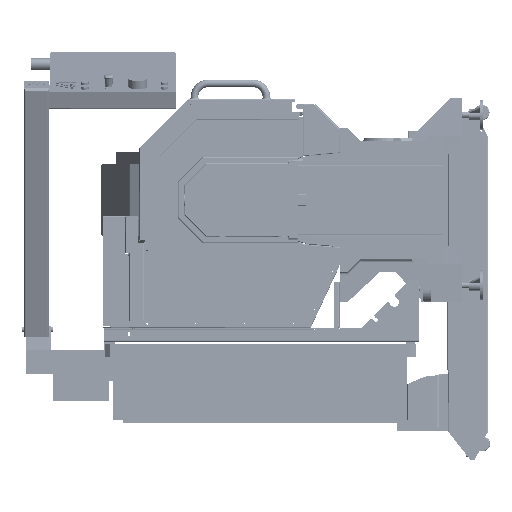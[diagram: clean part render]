
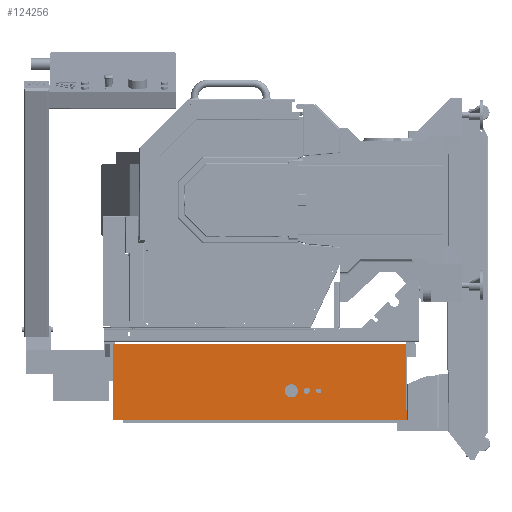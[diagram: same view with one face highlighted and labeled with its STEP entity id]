
A CAD part, left-side view. The second image highlights one B-rep face of the part: STEP entity #124256.
In plain terms, the highlighted planar face has unit normal (-1, 0, 0).
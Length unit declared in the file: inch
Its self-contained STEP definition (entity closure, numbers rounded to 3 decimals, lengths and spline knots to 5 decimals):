
#15955 = CARTESIAN_POINT ( 'NONE',  ( -29.00889, 29.34853, -50.59227 ) ) ;
#41256 = CARTESIAN_POINT ( 'NONE',  ( -29.00889, 29.34853, -38.13227 ) ) ;
#44238 = EDGE_LOOP ( 'NONE', ( #321641, #215588, #151981, #127463, #190270, #292487 ) ) ;
#52797 = CARTESIAN_POINT ( 'NONE',  ( -29.00889, -18.86647, -50.59227 ) ) ;
#53067 = VERTEX_POINT ( 'NONE', #200134 ) ;
#61742 = DIRECTION ( 'NONE',  ( 0., 0., -1. ) ) ;
#65046 = CARTESIAN_POINT ( 'NONE',  ( -29.00889, 29.34853, -38.36227 ) ) ;
#67912 = FACE_OUTER_BOUND ( 'NONE', #44238, .T. ) ;
#74590 = DIRECTION ( 'NONE',  ( 0., 1., 0. ) ) ;
#82059 = VECTOR ( 'NONE', #61742, 39.37008 ) ;
#86194 = EDGE_CURVE ( 'NONE', #320122, #260995, #169445, .T. ) ;
#88226 = EDGE_CURVE ( 'NONE', #304798, #269313, #173680, .T. ) ;
#93952 = CARTESIAN_POINT ( 'NONE',  ( -29.00889, -18.86647, -50.59227 ) ) ;
#96870 = DIRECTION ( 'NONE',  ( 0., 1., 0. ) ) ;
#106339 = VECTOR ( 'NONE', #280649, 39.37008 ) ;
#110486 = EDGE_CURVE ( 'NONE', #260995, #269313, #294372, .T. ) ;
#111453 = CARTESIAN_POINT ( 'NONE',  ( -29.00889, 29.34853, -38.13227 ) ) ;
#119777 = DIRECTION ( 'NONE',  ( 0., 1., 0. ) ) ;
#120344 = VECTOR ( 'NONE', #96870, 39.37008 ) ;
#124256 = ADVANCED_FACE ( 'NONE', ( #67912 ), #223045, .T. ) ;
#124374 = EDGE_CURVE ( 'NONE', #53067, #217283, #180819, .T. ) ;
#127463 = ORIENTED_EDGE ( 'NONE', *, *, #124374, .T. ) ;
#147125 = DIRECTION ( 'NONE',  ( -1., 0., 0. ) ) ;
#151981 = ORIENTED_EDGE ( 'NONE', *, *, #316703, .T. ) ;
#169445 = LINE ( 'NONE', #41256, #120344 ) ;
#173680 = LINE ( 'NONE', #276542, #298393 ) ;
#180819 = LINE ( 'NONE', #251676, #279820 ) ;
#186696 = DIRECTION ( 'NONE',  ( 0., 0., 1. ) ) ;
#190270 = ORIENTED_EDGE ( 'NONE', *, *, #193172, .T. ) ;
#193172 = EDGE_CURVE ( 'NONE', #217283, #320122, #289541, .T. ) ;
#200134 = CARTESIAN_POINT ( 'NONE',  ( -29.00889, -18.86647, -49.09227 ) ) ;
#201763 = VECTOR ( 'NONE', #186696, 39.37008 ) ;
#214862 = AXIS2_PLACEMENT_3D ( 'NONE', #324231, #147125, #246709 ) ;
#215588 = ORIENTED_EDGE ( 'NONE', *, *, #88226, .F. ) ;
#217283 = VERTEX_POINT ( 'NONE', #257754 ) ;
#223045 = PLANE ( 'NONE',  #214862 ) ;
#246709 = DIRECTION ( 'NONE',  ( 0., -1., 0. ) ) ;
#251676 = CARTESIAN_POINT ( 'NONE',  ( -29.00889, 29.34853, -49.09227 ) ) ;
#257754 = CARTESIAN_POINT ( 'NONE',  ( -29.00889, -18.77647, -49.09227 ) ) ;
#260995 = VERTEX_POINT ( 'NONE', #111453 ) ;
#264266 = CARTESIAN_POINT ( 'NONE',  ( -29.00889, -18.77647, -49.09227 ) ) ;
#269313 = VERTEX_POINT ( 'NONE', #15955 ) ;
#275302 = CARTESIAN_POINT ( 'NONE',  ( -29.00889, -18.77647, -38.13227 ) ) ;
#276542 = CARTESIAN_POINT ( 'NONE',  ( -29.00889, 29.34853, -50.59227 ) ) ;
#279820 = VECTOR ( 'NONE', #74590, 39.37008 ) ;
#280649 = DIRECTION ( 'NONE',  ( 0., 0., 1. ) ) ;
#289541 = LINE ( 'NONE', #264266, #201763 ) ;
#292487 = ORIENTED_EDGE ( 'NONE', *, *, #86194, .T. ) ;
#294372 = LINE ( 'NONE', #65046, #82059 ) ;
#296351 = LINE ( 'NONE', #93952, #106339 ) ;
#298393 = VECTOR ( 'NONE', #119777, 39.37008 ) ;
#304798 = VERTEX_POINT ( 'NONE', #52797 ) ;
#316703 = EDGE_CURVE ( 'NONE', #304798, #53067, #296351, .T. ) ;
#320122 = VERTEX_POINT ( 'NONE', #275302 ) ;
#321641 = ORIENTED_EDGE ( 'NONE', *, *, #110486, .T. ) ;
#324231 = CARTESIAN_POINT ( 'NONE',  ( -29.00889, 29.34853, -72.22678 ) ) ;
